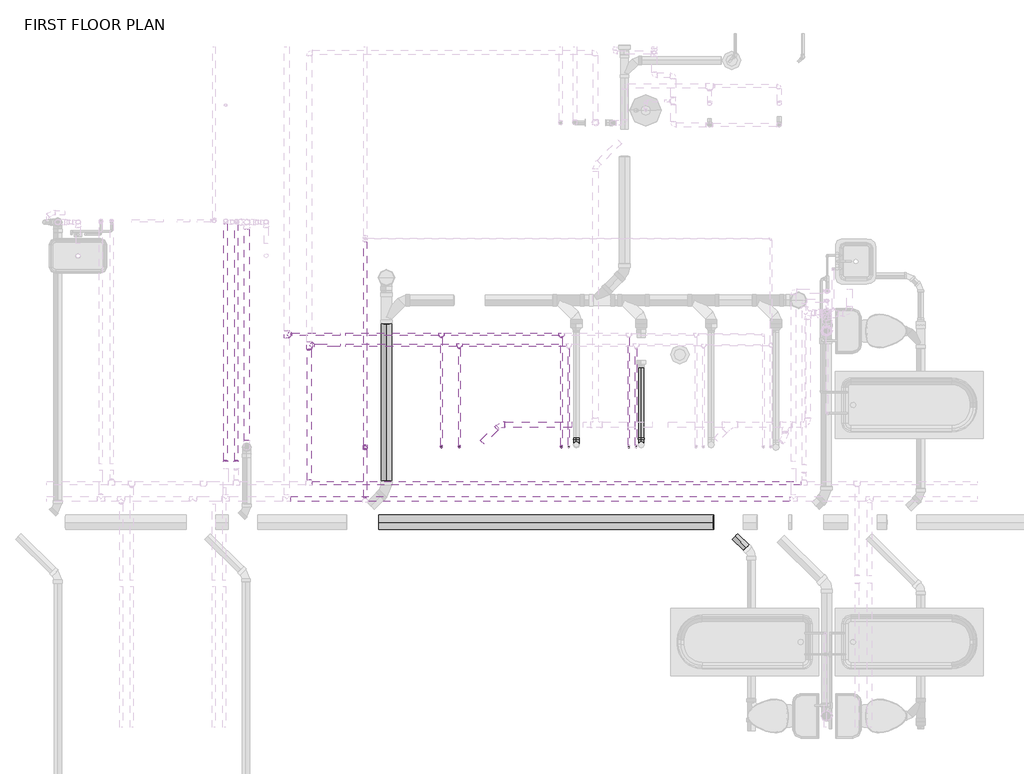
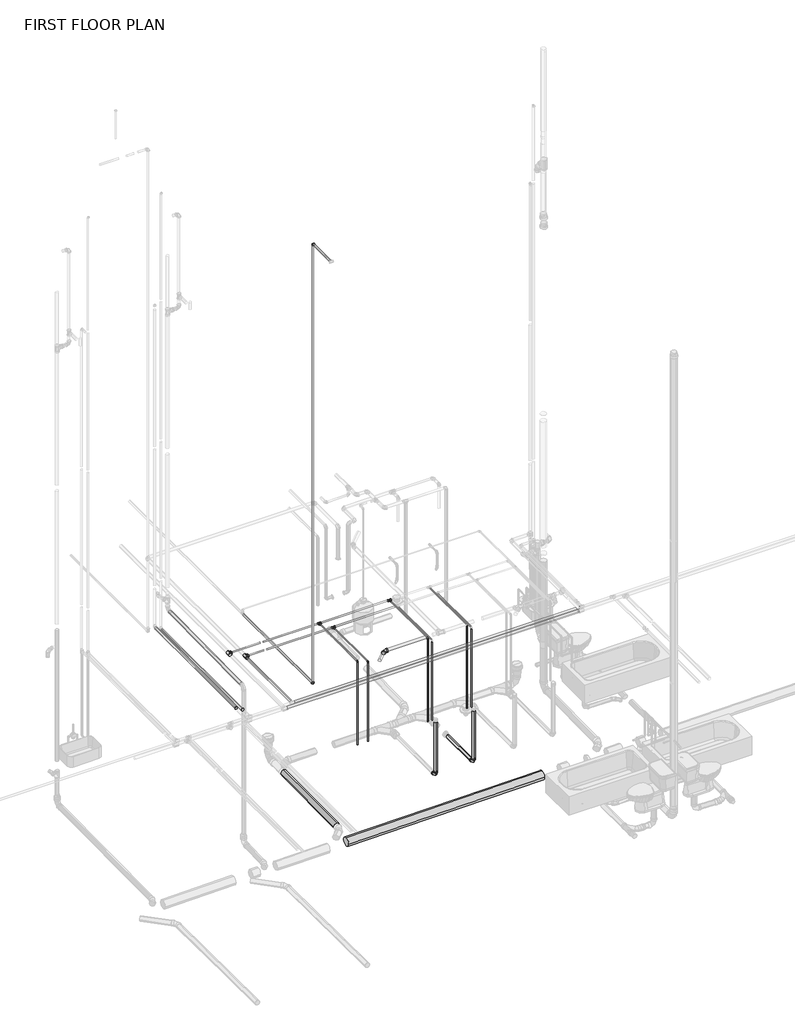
# One storey, part 13 of 29: 35 pipe segments, 21 pipe fittings.
"""IFC4 building model written with IfcOpenShell, lengths in millimetres."""

from ifc_helpers import new_model, si_unit, point, frame, frame_2d, origin, place, context, project, spatial, circle_curve, trimmed, segment, composite_curve, outline, extrude, transform, mapped, element, save
from components import bend_pvc_sch_40_dwv_standard_f2f5988a, bend_pvc_sch_40_dwv_standard_47385f67, bend_pvc_sch_40_dwv_standard_2ba8ce22, pipe_elbow_copper_k_aad62f2d, pipe_elbow_copper_k_aee2f062, pipe_tee_copper_k_36278b8a, pipe_tee_copper_k_feafe2f1, pipe_transition_copper_k_3b8d3413, pipe_transition_copper_k_a6a91236, pipe_transition_copper_k_b63fd5dd, pipe_transition_copper_k_83c73321

model = new_model("IFC4")

# Units and contexts
model_context = context("Model", 3, world=origin())
ifc_project = project(units=[si_unit("LENGTHUNIT", "METRE", prefix="MILLI")], contexts=[model_context])

# Site, building, storey
site = spatial("IfcSite", under=ifc_project)
building = spatial("IfcBuilding", under=site)
storey = spatial("IfcBuildingStorey", under=building, Name="FIRST FLOOR PLAN", Elevation=0.0)

# Pipe fittings
placement = place(None, origin())
bend_pvc_sch_40_dwv_standard_shape = bend_pvc_sch_40_dwv_standard_f2f5988a(model_context)
element("IfcPipeFitting", 1, ObjectType="Bend - PVC - Sch 40 - DWV : Standard", at=placement, inside=storey, context=model_context, shape_type="MappedRepresentation", body=[
    mapped(bend_pvc_sch_40_dwv_standard_shape, transform((13240.7734696, 6617.4137881, 2311.3999997), x_axis=(-1.0, 0.0, 0.0), y_axis=(0.0, -1.0, 0.0), z_axis=(0.0, 0.0, 1.0))),
])
bend_pvc_sch_40_dwv_standard_2_shape = bend_pvc_sch_40_dwv_standard_47385f67(model_context)
element("IfcPipeFitting", 2, ObjectType="Bend - PVC - Sch 40 - DWV : Standard", at=placement, inside=storey, context=model_context, shape_type="MappedRepresentation", body=[
    mapped(bend_pvc_sch_40_dwv_standard_2_shape, transform((14840.6889125, 6391.8219986, -376.343608), x_axis=(-4.307089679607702e-05, 4.2748559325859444e-05, -0.9999999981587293), y_axis=(6.94850071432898e-08, 0.9999999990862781, 4.274855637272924e-05), z_axis=(0.9999999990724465, -6.764378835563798e-08, -4.3070899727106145e-05))),
])
bend_pvc_sch_40_dwv_standard_3_shape = bend_pvc_sch_40_dwv_standard_2ba8ce22(model_context)
element("IfcPipeFitting", 3, ObjectType="Bend - PVC - Sch 40 - DWV : Standard", at=placement, inside=storey, context=model_context, shape_type="MappedRepresentation", body=[
    mapped(bend_pvc_sch_40_dwv_standard_3_shape, transform((14106.8551132, 6391.8240842, -383.9409394), x_axis=(-4.3070896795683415e-05, 4.274855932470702e-05, -0.9999999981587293), y_axis=(7.073454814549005e-08, 0.999999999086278, 4.2748556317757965e-05), z_axis=(0.9999999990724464, -6.889332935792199e-08, -4.307089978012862e-05))),
])
pipe_elbow_copper_k_shape = pipe_elbow_copper_k_aad62f2d(model_context)
element("IfcPipeFitting", 4, ObjectType="Pipe Elbow : Copper- K", at=placement, inside=storey, context=model_context, shape_type="MappedRepresentation", body=[
    mapped(pipe_elbow_copper_k_shape, transform((13936.7084875, 6363.4137881, 2490.6882812), x_axis=(0.0, 0.0, 1.0), y_axis=(0.0, 1.0, 0.0), z_axis=(-1.0, 0.0, 0.0))),
])
element("IfcPipeFitting", 5, ObjectType="Pipe Elbow : Copper- K", at=placement, inside=storey, context=model_context, shape_type="MappedRepresentation", body=[
    mapped(pipe_elbow_copper_k_shape, transform((12578.5084875, 6363.4137881, 2490.6882812), x_axis=(0.0, 0.0, 1.0), y_axis=(0.0, 1.0, 0.0), z_axis=(-1.0, 0.0, 0.0))),
])
element("IfcPipeFitting", 6, ObjectType="Pipe Elbow : Copper- K", at=placement, inside=storey, context=model_context, shape_type="MappedRepresentation", body=[
    mapped(pipe_elbow_copper_k_shape, transform((12781.7084875, 6363.4137881, 2413.0), x_axis=(0.0, 0.0, 1.0), y_axis=(0.0, 1.0, 0.0), z_axis=(-1.0, 0.0, 0.0))),
])
pipe_elbow_copper_k_2_shape = pipe_elbow_copper_k_aee2f062(model_context)
element("IfcPipeFitting", 7, ObjectType="Pipe Elbow : Copper- K", at=placement, inside=storey, context=model_context, shape_type="MappedRepresentation", body=[
    mapped(pipe_elbow_copper_k_2_shape, transform((11717.5356736, 6363.4137881, 2336.8), x_axis=(0.0, -1.0, 0.0), y_axis=(0.0, 0.0, 1.0), z_axis=(-1.0, 0.0, 0.0))),
])
element("IfcPipeFitting", 8, ObjectType="Pipe Elbow : Copper- K", at=placement, inside=storey, context=model_context, shape_type="MappedRepresentation", body=[
    mapped(pipe_elbow_copper_k_2_shape, transform((11717.5356736, 6363.4137881, 11328.4), x_axis=(0.0, 0.0, 1.0), y_axis=(0.0, -1.0, 0.0), z_axis=(1.0, 0.0, 0.0))),
])
pipe_tee_copper_k_shape = pipe_tee_copper_k_36278b8a(model_context)
element("IfcPipeFitting", 9, ObjectType="Pipe Tee : Copper- K", at=placement, inside=storey, context=model_context, shape_type="MappedRepresentation", body=[
    mapped(pipe_tee_copper_k_shape, transform((10828.4459875, 7639.882496, 2490.6882817), x_axis=(0.0, 1.0, 0.0), y_axis=(-1.0, 0.0, 0.0), z_axis=(0.0, 0.0, 1.0))),
])
element("IfcPipeFitting", 10, ObjectType="Pipe Tee : Copper- K", at=placement, inside=storey, context=model_context, shape_type="MappedRepresentation", body=[
    mapped(pipe_tee_copper_k_shape, transform((11082.5356736, 7519.1499538, 2413.0), x_axis=(0.0, 1.0, 0.0), y_axis=(-1.0, 0.0, 0.0), z_axis=(0.0, 0.0, 1.0))),
])
pipe_tee_copper_k_2_shape = pipe_tee_copper_k_feafe2f1(model_context)
element("IfcPipeFitting", 11, ObjectType="Pipe Tee : Copper- K", at=placement, inside=storey, context=model_context, shape_type="MappedRepresentation", body=[
    mapped(pipe_tee_copper_k_2_shape, transform((13936.7084875, 7639.882496, 2490.6882812), x_axis=(1.0, 0.0, 0.0), y_axis=(0.0, 1.0, 0.0), z_axis=(0.0, 0.0, 1.0))),
])
element("IfcPipeFitting", 12, ObjectType="Pipe Tee : Copper- K", at=placement, inside=storey, context=model_context, shape_type="MappedRepresentation", body=[
    mapped(pipe_tee_copper_k_2_shape, transform((12578.5084875, 7639.882496, 2490.6882812), x_axis=(1.0, 0.0, 0.0), y_axis=(0.0, 1.0, 0.0), z_axis=(0.0, 0.0, 1.0))),
])
element("IfcPipeFitting", 13, ObjectType="Pipe Tee : Copper- K", at=placement, inside=storey, context=model_context, shape_type="MappedRepresentation", body=[
    mapped(pipe_tee_copper_k_2_shape, transform((12781.7084875, 7519.1499538, 2413.0), x_axis=(1.0, 0.0, 0.0), y_axis=(0.0, 1.0, 0.0), z_axis=(0.0, 0.0, 1.0))),
])
pipe_transition_copper_k_shape = pipe_transition_copper_k_3b8d3413(model_context)
element("IfcPipeFitting", 14, ObjectType="Pipe Transition : Copper- K", at=placement, inside=storey, context=model_context, shape_type="MappedRepresentation", body=[
    mapped(pipe_transition_copper_k_shape, transform((11082.5356736, 7476.2874538, 2413.0), x_axis=(0.0, -1.0, 0.0), y_axis=(1.0, 0.0, 0.0), z_axis=(0.0, 0.0, 1.0))),
])
element("IfcPipeFitting", 15, ObjectType="Pipe Transition : Copper- K", at=placement, inside=storey, context=model_context, shape_type="MappedRepresentation", body=[
    mapped(pipe_transition_copper_k_shape, transform((10136.7487434, 6199.0757881, 2490.6882812), x_axis=(0.0, 1.0, 0.0), y_axis=(-1.0, 0.0, 0.0), z_axis=(0.0, 0.0, 1.0))),
])
pipe_transition_copper_k_2_shape = pipe_transition_copper_k_a6a91236(model_context)
element("IfcPipeFitting", 16, ObjectType="Pipe Transition : Copper- K", at=placement, inside=storey, context=model_context, shape_type="MappedRepresentation", body=[
    mapped(pipe_transition_copper_k_2_shape, transform((10871.3084875, 7639.882496, 2490.6882817), x_axis=(1.0, 0.0, 0.0), y_axis=(0.0, 1.0, 0.0), z_axis=(0.0, 0.0, 1.0))),
])
element("IfcPipeFitting", 17, ObjectType="Pipe Transition : Copper- K", at=placement, inside=storey, context=model_context, shape_type="MappedRepresentation", body=[
    mapped(pipe_transition_copper_k_2_shape, transform((11125.3981736, 7519.1499538, 2413.0), x_axis=(1.0, 0.0, 0.0), y_axis=(0.0, 1.0, 0.0), z_axis=(0.0, 0.0, 1.0))),
])
pipe_transition_copper_k_3_shape = pipe_transition_copper_k_b63fd5dd(model_context)
element("IfcPipeFitting", 18, ObjectType="Pipe Transition : Copper- K", at=placement, inside=storey, context=model_context, shape_type="MappedRepresentation", body=[
    mapped(pipe_transition_copper_k_3_shape, transform((12781.7084875, 7488.9874538, 2413.0), x_axis=(0.0, -1.0, 0.0), y_axis=(1.0, 0.0, 0.0), z_axis=(0.0, 0.0, 1.0))),
])
element("IfcPipeFitting", 19, ObjectType="Pipe Transition : Copper- K", at=placement, inside=storey, context=model_context, shape_type="MappedRepresentation", body=[
    mapped(pipe_transition_copper_k_3_shape, transform((12578.5084875, 7609.719996, 2490.6882812), x_axis=(0.0, -1.0, 0.0), y_axis=(1.0, 0.0, 0.0), z_axis=(0.0, 0.0, 1.0))),
])
element("IfcPipeFitting", 20, ObjectType="Pipe Transition : Copper- K", at=placement, inside=storey, context=model_context, shape_type="MappedRepresentation", body=[
    mapped(pipe_transition_copper_k_3_shape, transform((13936.7084875, 7609.719996, 2490.6882812), x_axis=(0.0, -1.0, 0.0), y_axis=(1.0, 0.0, 0.0), z_axis=(0.0, 0.0, 1.0))),
])
pipe_transition_copper_k_4_shape = pipe_transition_copper_k_83c73321(model_context)
element("IfcPipeFitting", 21, ObjectType="Pipe Transition : Copper- K", at=placement, inside=storey, context=model_context, shape_type="MappedRepresentation", body=[
    mapped(pipe_transition_copper_k_4_shape, transform((10257.4812856, 6199.0757881, 2413.0), x_axis=(0.0, 1.0, 0.0), y_axis=(-1.0, 0.0, 0.0), z_axis=(0.0, 0.0, 1.0))),
])

# Pipe segments
element("IfcPipeSegment", 22, ObjectType="Cast Iron - VENT", at=placement, inside=storey, context=model_context, shape_type="SweptSolid", body=[
    extrude(outline(composite_curve([segment(trimmed(circle_curve(frame_2d((0.0, -30.1625)), 30.1625), [point((-30.1625, -30.1625))], [point((0.0, 0.0))], False, "CARTESIAN"), True, "CONTINUOUS"), segment(trimmed(circle_curve(frame_2d((0.0, -30.1625)), 30.1625), [point((0.0, 0.0))], [point((30.1625, -30.1625))], False, "CARTESIAN"), True, "CONTINUOUS"), segment(trimmed(circle_curve(frame_2d((0.0, -30.1625)), 30.1625), [point((30.1625, -30.1625))], [point((0.0, -60.325))], False, "CARTESIAN"), True, "CONTINUOUS"), segment(trimmed(circle_curve(frame_2d((0.0, -30.1625)), 30.1625), [point((0.0, -60.325))], [point((-30.1625, -30.1625))], False, "CARTESIAN"), True, "CONTINUOUS")], self_intersect=False)), frame((13041.8906499, 6418.5309683, 2281.2374997), z_axis=(0.7071067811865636, 0.7071067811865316, 0.0), x_axis=(0.7071067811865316, -0.7071067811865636, 0.0)), (0.0, 0.0, 1.0), 224.112781),
])
element("IfcPipeSegment", 23, ObjectType="Cast Iron - VENT", at=placement, inside=storey, context=model_context, shape_type="SweptSolid", body=[
    extrude(outline(composite_curve([segment(trimmed(circle_curve(frame_2d((6617.4137881, 2311.4000006)), 30.1625), [point((6647.5762881, 2311.4000006))], [point((6617.4137881, 2281.2375006))], False, "CARTESIAN"), True, "CONTINUOUS"), segment(trimmed(circle_curve(frame_2d((6617.4137881, 2311.4000006)), 30.1625), [point((6617.4137881, 2281.2375006))], [point((6587.2512881, 2311.4000006))], False, "CARTESIAN"), True, "CONTINUOUS"), segment(trimmed(circle_curve(frame_2d((6617.4137881, 2311.4000006)), 30.1625), [point((6587.2512881, 2311.4000006))], [point((6617.4137881, 2341.5625006))], False, "CARTESIAN"), True, "CONTINUOUS"), segment(trimmed(circle_curve(frame_2d((6617.4137881, 2311.4000006)), 30.1625), [point((6617.4137881, 2341.5625006))], [point((6647.5762881, 2311.4000006))], False, "CARTESIAN"), True, "CONTINUOUS")], self_intersect=False)), frame((13297.9234696, 0.0, 0.0), z_axis=(1.0, 0.0, 0.0), x_axis=(0.0, 1.0, 0.0)), (0.0, 0.0, 1.0), 755.0236232),
])
element("IfcPipeSegment", 24, ObjectType="Copper", at=placement, inside=storey, context=model_context, shape_type="SweptSolid", body=[
    extrude(outline(composite_curve([segment(trimmed(circle_curve(frame_2d((2413.0, 10257.4812856)), 17.4625), [point((2413.0, 10274.9437856))], [point((2430.4625, 10257.4812856))], False, "CARTESIAN"), True, "CONTINUOUS"), segment(trimmed(circle_curve(frame_2d((2413.0, 10257.4812856)), 17.4625), [point((2430.4625, 10257.4812856))], [point((2413.0, 10240.0187856))], False, "CARTESIAN"), True, "CONTINUOUS"), segment(trimmed(circle_curve(frame_2d((2413.0, 10257.4812856)), 17.4625), [point((2413.0, 10240.0187856))], [point((2395.5375, 10257.4812856))], False, "CARTESIAN"), True, "CONTINUOUS"), segment(trimmed(circle_curve(frame_2d((2413.0, 10257.4812856)), 17.4625), [point((2395.5375, 10257.4812856))], [point((2413.0, 10274.9437856))], False, "CARTESIAN"), True, "CONTINUOUS")], self_intersect=False)), frame((0.0, 6212.5695381, 0.0), z_axis=(0.0, 1.0, 0.0), x_axis=(0.0, 0.0, 1.0)), (0.0, 0.0, 1.0), 2688.2605),
])
element("IfcPipeSegment", 25, ObjectType="Copper", at=placement, inside=storey, context=model_context, shape_type="SweptSolid", body=[
    extrude(outline(composite_curve([segment(trimmed(circle_curve(frame_2d((2490.6882812, 10136.7487434)), 20.6375), [point((2490.6882812, 10157.3862434))], [point((2511.3257812, 10136.7487434))], False, "CARTESIAN"), True, "CONTINUOUS"), segment(trimmed(circle_curve(frame_2d((2490.6882812, 10136.7487434)), 20.6375), [point((2511.3257812, 10136.7487434))], [point((2490.6882812, 10116.1112434))], False, "CARTESIAN"), True, "CONTINUOUS"), segment(trimmed(circle_curve(frame_2d((2490.6882812, 10136.7487434)), 20.6375), [point((2490.6882812, 10116.1112434))], [point((2470.0507812, 10136.7487434))], False, "CARTESIAN"), True, "CONTINUOUS"), segment(trimmed(circle_curve(frame_2d((2490.6882812, 10136.7487434)), 20.6375), [point((2470.0507812, 10136.7487434))], [point((2490.6882812, 10157.3862434))], False, "CARTESIAN"), True, "CONTINUOUS")], self_intersect=False)), frame((0.0, 6212.5695381, 0.0), z_axis=(0.0, 1.0, 0.0), x_axis=(0.0, 0.0, 1.0)), (0.0, 0.0, 1.0), 2685.0855),
])
element("IfcPipeSegment", 26, ObjectType="Copper", at=placement, inside=storey, context=model_context, shape_type="SweptSolid", body=[
    extrude(outline(composite_curve([segment(trimmed(circle_curve(frame_2d((5956.0175381, 2413.0)), 20.6375), [point((5976.6550381, 2413.0))], [point((5956.0175381, 2392.3625))], False, "CARTESIAN"), True, "CONTINUOUS"), segment(trimmed(circle_curve(frame_2d((5956.0175381, 2413.0)), 20.6375), [point((5956.0175381, 2392.3625))], [point((5935.3800381, 2413.0))], False, "CARTESIAN"), True, "CONTINUOUS"), segment(trimmed(circle_curve(frame_2d((5956.0175381, 2413.0)), 20.6375), [point((5935.3800381, 2413.0))], [point((5956.0175381, 2433.6375))], False, "CARTESIAN"), True, "CONTINUOUS"), segment(trimmed(circle_curve(frame_2d((5956.0175381, 2413.0)), 20.6375), [point((5956.0175381, 2433.6375))], [point((5976.6550381, 2413.0))], False, "CARTESIAN"), True, "CONTINUOUS")], self_intersect=False)), frame((11119.0481736, 0.0, 0.0), z_axis=(1.0, 0.0, 0.0), x_axis=(0.0, 1.0, 0.0)), (0.0, 0.0, 1.0), 5526.4539368),
])
element("IfcPipeSegment", 27, ObjectType="Copper", at=placement, inside=storey, context=model_context, shape_type="SweptSolid", body=[
    extrude(outline(composite_curve([segment(trimmed(circle_curve(frame_2d((5778.2175381, 2490.6882812)), 26.9875), [point((5805.2050381, 2490.6882812))], [point((5778.2175381, 2463.7007812))], False, "CARTESIAN"), True, "CONTINUOUS"), segment(trimmed(circle_curve(frame_2d((5778.2175381, 2490.6882812)), 26.9875), [point((5778.2175381, 2463.7007812))], [point((5751.2300381, 2490.6882812))], False, "CARTESIAN"), True, "CONTINUOUS"), segment(trimmed(circle_curve(frame_2d((5778.2175381, 2490.6882812)), 26.9875), [point((5751.2300381, 2490.6882812))], [point((5778.2175381, 2517.6757812))], False, "CARTESIAN"), True, "CONTINUOUS"), segment(trimmed(circle_curve(frame_2d((5778.2175381, 2490.6882812)), 26.9875), [point((5778.2175381, 2517.6757812))], [point((5805.2050381, 2490.6882812))], False, "CARTESIAN"), True, "CONTINUOUS")], self_intersect=False)), frame((10871.3084875, 0.0, 0.0), z_axis=(1.0, 0.0, 0.0), x_axis=(0.0, 1.0, 0.0)), (0.0, 0.0, 1.0), 5648.6914368),
])
element("IfcPipeSegment", 28, ObjectType="Copper", at=placement, inside=storey, context=model_context, shape_type="SweptSolid", body=[
    extrude(outline(composite_curve([segment(trimmed(circle_curve(frame_2d((7639.882496, 2490.6882812)), 14.2875), [point((7654.169996, 2490.6882812))], [point((7639.882496, 2476.4007812))], False, "CARTESIAN"), True, "CONTINUOUS"), segment(trimmed(circle_curve(frame_2d((7639.882496, 2490.6882812)), 14.2875), [point((7639.882496, 2476.4007812))], [point((7625.594996, 2490.6882812))], False, "CARTESIAN"), True, "CONTINUOUS"), segment(trimmed(circle_curve(frame_2d((7639.882496, 2490.6882812)), 14.2875), [point((7625.594996, 2490.6882812))], [point((7639.882496, 2504.9757812))], False, "CARTESIAN"), True, "CONTINUOUS"), segment(trimmed(circle_curve(frame_2d((7639.882496, 2490.6882812)), 14.2875), [point((7639.882496, 2504.9757812))], [point((7654.169996, 2490.6882812))], False, "CARTESIAN"), True, "CONTINUOUS")], self_intersect=False)), frame((10884.8022375, 0.0, 0.0), z_axis=(1.0, 0.0, 0.0), x_axis=(0.0, 1.0, 0.0)), (0.0, 0.0, 1.0), 548.2529785),
])
element("IfcPipeSegment", 29, ObjectType="Copper", at=placement, inside=storey, context=model_context, shape_type="SweptSolid", body=[
    extrude(outline(composite_curve([segment(trimmed(circle_curve(frame_2d((7519.1499538, 2413.0)), 14.2875), [point((7533.4374538, 2413.0))], [point((7519.1499538, 2398.7125))], False, "CARTESIAN"), True, "CONTINUOUS"), segment(trimmed(circle_curve(frame_2d((7519.1499538, 2413.0)), 14.2875), [point((7519.1499538, 2398.7125))], [point((7504.8624538, 2413.0))], False, "CARTESIAN"), True, "CONTINUOUS"), segment(trimmed(circle_curve(frame_2d((7519.1499538, 2413.0)), 14.2875), [point((7504.8624538, 2413.0))], [point((7519.1499538, 2427.2875))], False, "CARTESIAN"), True, "CONTINUOUS"), segment(trimmed(circle_curve(frame_2d((7519.1499538, 2413.0)), 14.2875), [point((7519.1499538, 2427.2875))], [point((7533.4374538, 2413.0))], False, "CARTESIAN"), True, "CONTINUOUS")], self_intersect=False)), frame((11138.8919236, 0.0, 0.0), z_axis=(1.0, 0.0, 0.0), x_axis=(0.0, 1.0, 0.0)), (0.0, 0.0, 1.0), 294.1632924),
])
element("IfcPipeSegment", 30, ObjectType="Copper", at=placement, inside=storey, context=model_context, shape_type="SweptSolid", body=[
    extrude(outline(composite_curve([segment(trimmed(circle_curve(frame_2d((2413.0, 11082.5356736)), 20.6375), [point((2413.0, 11061.8981736))], [point((2392.3625, 11082.5356736))], False, "CARTESIAN"), True, "CONTINUOUS"), segment(trimmed(circle_curve(frame_2d((2413.0, 11082.5356736)), 20.6375), [point((2392.3625, 11082.5356736))], [point((2413.0, 11103.1731736))], False, "CARTESIAN"), True, "CONTINUOUS"), segment(trimmed(circle_curve(frame_2d((2413.0, 11082.5356736)), 20.6375), [point((2413.0, 11103.1731736))], [point((2433.6375, 11082.5356736))], False, "CARTESIAN"), True, "CONTINUOUS"), segment(trimmed(circle_curve(frame_2d((2413.0, 11082.5356736)), 20.6375), [point((2433.6375, 11082.5356736))], [point((2413.0, 11061.8981736))], False, "CARTESIAN"), True, "CONTINUOUS")], self_intersect=False)), frame((0.0, 5992.5300381, 0.0), z_axis=(0.0, 1.0, 0.0), x_axis=(0.0, 0.0, 1.0)), (0.0, 0.0, 1.0), 1470.2636658),
])
element("IfcPipeSegment", 31, ObjectType="Copper", at=placement, inside=storey, context=model_context, shape_type="SweptSolid", body=[
    extrude(outline(composite_curve([segment(trimmed(circle_curve(frame_2d((2413.0, 12781.7084875)), 7.9375), [point((2413.0, 12789.6459875))], [point((2420.9375, 12781.7084875))], False, "CARTESIAN"), True, "CONTINUOUS"), segment(trimmed(circle_curve(frame_2d((2413.0, 12781.7084875)), 7.9375), [point((2420.9375, 12781.7084875))], [point((2413.0, 12773.7709875))], False, "CARTESIAN"), True, "CONTINUOUS"), segment(trimmed(circle_curve(frame_2d((2413.0, 12781.7084875)), 7.9375), [point((2413.0, 12773.7709875))], [point((2405.0625, 12781.7084875))], False, "CARTESIAN"), True, "CONTINUOUS"), segment(trimmed(circle_curve(frame_2d((2413.0, 12781.7084875)), 7.9375), [point((2405.0625, 12781.7084875))], [point((2413.0, 12789.6459875))], False, "CARTESIAN"), True, "CONTINUOUS")], self_intersect=False)), frame((0.0, 6380.8762881, 0.0), z_axis=(0.0, 1.0, 0.0), x_axis=(0.0, 0.0, 1.0)), (0.0, 0.0, 1.0), 1100.9674158),
])
element("IfcPipeSegment", 32, ObjectType="Copper", at=placement, inside=storey, context=model_context, shape_type="SweptSolid", body=[
    extrude(outline(composite_curve([segment(trimmed(circle_curve(frame_2d((2490.6882813, 12578.5084875)), 7.9375), [point((2490.6882813, 12586.4459875))], [point((2498.6257813, 12578.5084875))], False, "CARTESIAN"), True, "CONTINUOUS"), segment(trimmed(circle_curve(frame_2d((2490.6882813, 12578.5084875)), 7.9375), [point((2498.6257813, 12578.5084875))], [point((2490.6882813, 12570.5709875))], False, "CARTESIAN"), True, "CONTINUOUS"), segment(trimmed(circle_curve(frame_2d((2490.6882813, 12578.5084875)), 7.9375), [point((2490.6882813, 12570.5709875))], [point((2482.7507813, 12578.5084875))], False, "CARTESIAN"), True, "CONTINUOUS"), segment(trimmed(circle_curve(frame_2d((2490.6882813, 12578.5084875)), 7.9375), [point((2482.7507813, 12578.5084875))], [point((2490.6882813, 12586.4459875))], False, "CARTESIAN"), True, "CONTINUOUS")], self_intersect=False)), frame((0.0, 6380.8762881, 0.0), z_axis=(0.0, 1.0, 0.0), x_axis=(0.0, 0.0, 1.0)), (0.0, 0.0, 1.0), 1221.699958),
])
element("IfcPipeSegment", 33, ObjectType="Copper", at=placement, inside=storey, context=model_context, shape_type="SweptSolid", body=[
    extrude(outline(composite_curve([segment(trimmed(circle_curve(frame_2d((12578.5084875, 6363.4137881)), 7.9375), [point((12586.4459875, 6363.4137881))], [point((12578.5084875, 6355.4762881))], False, "CARTESIAN"), True, "CONTINUOUS"), segment(trimmed(circle_curve(frame_2d((12578.5084875, 6363.4137881)), 7.9375), [point((12578.5084875, 6355.4762881))], [point((12570.5709875, 6363.4137881))], False, "CARTESIAN"), True, "CONTINUOUS"), segment(trimmed(circle_curve(frame_2d((12578.5084875, 6363.4137881)), 7.9375), [point((12570.5709875, 6363.4137881))], [point((12578.5084875, 6371.3512881))], False, "CARTESIAN"), True, "CONTINUOUS"), segment(trimmed(circle_curve(frame_2d((12578.5084875, 6363.4137881)), 7.9375), [point((12578.5084875, 6371.3512881))], [point((12586.4459875, 6363.4137881))], False, "CARTESIAN"), True, "CONTINUOUS")], self_intersect=False)), frame((0.0, 0.0, 788.8882812), z_axis=(0.0, 0.0, 1.0), x_axis=(1.0, 0.0, 0.0)), (0.0, 0.0, 1.0), 1684.3375),
])
element("IfcPipeSegment", 34, ObjectType="Copper", at=placement, inside=storey, context=model_context, shape_type="SweptSolid", body=[
    extrude(outline(composite_curve([segment(trimmed(circle_curve(frame_2d((12781.7084875, 6363.4137881)), 7.9375), [point((12789.6459875, 6363.4137881))], [point((12781.7084875, 6355.4762881))], False, "CARTESIAN"), True, "CONTINUOUS"), segment(trimmed(circle_curve(frame_2d((12781.7084875, 6363.4137881)), 7.9375), [point((12781.7084875, 6355.4762881))], [point((12773.7709875, 6363.4137881))], False, "CARTESIAN"), True, "CONTINUOUS"), segment(trimmed(circle_curve(frame_2d((12781.7084875, 6363.4137881)), 7.9375), [point((12773.7709875, 6363.4137881))], [point((12781.7084875, 6371.3512881))], False, "CARTESIAN"), True, "CONTINUOUS"), segment(trimmed(circle_curve(frame_2d((12781.7084875, 6363.4137881)), 7.9375), [point((12781.7084875, 6371.3512881))], [point((12789.6459875, 6363.4137881))], False, "CARTESIAN"), True, "CONTINUOUS")], self_intersect=False)), frame((0.0, 0.0, 788.8882812), z_axis=(0.0, 0.0, 1.0), x_axis=(1.0, 0.0, 0.0)), (0.0, 0.0, 1.0), 1606.6492188),
])
element("IfcPipeSegment", 35, ObjectType="Copper", at=placement, inside=storey, context=model_context, shape_type="SweptSolid", body=[
    extrude(outline(composite_curve([segment(trimmed(circle_curve(frame_2d((2413.0, 14782.5084875)), 7.9375), [point((2413.0, 14790.4459875))], [point((2420.9375, 14782.5084875))], False, "CARTESIAN"), True, "CONTINUOUS"), segment(trimmed(circle_curve(frame_2d((2413.0, 14782.5084875)), 7.9375), [point((2420.9375, 14782.5084875))], [point((2413.0, 14774.5709875))], False, "CARTESIAN"), True, "CONTINUOUS"), segment(trimmed(circle_curve(frame_2d((2413.0, 14782.5084875)), 7.9375), [point((2413.0, 14774.5709875))], [point((2405.0625, 14782.5084875))], False, "CARTESIAN"), True, "CONTINUOUS"), segment(trimmed(circle_curve(frame_2d((2413.0, 14782.5084875)), 7.9375), [point((2405.0625, 14782.5084875))], [point((2413.0, 14790.4459875))], False, "CARTESIAN"), True, "CONTINUOUS")], self_intersect=False)), frame((0.0, 6380.8762881, 0.0), z_axis=(0.0, 1.0, 0.0), x_axis=(0.0, 0.0, 1.0)), (0.0, 0.0, 1.0), 1100.9674158),
])
element("IfcPipeSegment", 36, ObjectType="Copper", at=placement, inside=storey, context=model_context, shape_type="SweptSolid", body=[
    extrude(outline(composite_curve([segment(trimmed(circle_curve(frame_2d((2490.6882813, 14698.9084875)), 7.9375), [point((2490.6882813, 14706.8459875))], [point((2498.6257813, 14698.9084875))], False, "CARTESIAN"), True, "CONTINUOUS"), segment(trimmed(circle_curve(frame_2d((2490.6882813, 14698.9084875)), 7.9375), [point((2498.6257813, 14698.9084875))], [point((2490.6882813, 14690.9709875))], False, "CARTESIAN"), True, "CONTINUOUS"), segment(trimmed(circle_curve(frame_2d((2490.6882813, 14698.9084875)), 7.9375), [point((2490.6882813, 14690.9709875))], [point((2482.7507813, 14698.9084875))], False, "CARTESIAN"), True, "CONTINUOUS"), segment(trimmed(circle_curve(frame_2d((2490.6882813, 14698.9084875)), 7.9375), [point((2482.7507813, 14698.9084875))], [point((2490.6882813, 14706.8459875))], False, "CARTESIAN"), True, "CONTINUOUS")], self_intersect=False)), frame((0.0, 6380.8762881, 0.0), z_axis=(0.0, 1.0, 0.0), x_axis=(0.0, 0.0, 1.0)), (0.0, 0.0, 1.0), 1221.699958),
])
element("IfcPipeSegment", 37, ObjectType="Copper", at=placement, inside=storey, context=model_context, shape_type="SweptSolid", body=[
    extrude(outline(composite_curve([segment(trimmed(circle_curve(frame_2d((14698.9084875, 6363.4137881)), 7.9375), [point((14706.8459875, 6363.4137881))], [point((14698.9084875, 6355.4762881))], False, "CARTESIAN"), True, "CONTINUOUS"), segment(trimmed(circle_curve(frame_2d((14698.9084875, 6363.4137881)), 7.9375), [point((14698.9084875, 6355.4762881))], [point((14690.9709875, 6363.4137881))], False, "CARTESIAN"), True, "CONTINUOUS"), segment(trimmed(circle_curve(frame_2d((14698.9084875, 6363.4137881)), 7.9375), [point((14690.9709875, 6363.4137881))], [point((14698.9084875, 6371.3512881))], False, "CARTESIAN"), True, "CONTINUOUS"), segment(trimmed(circle_curve(frame_2d((14698.9084875, 6363.4137881)), 7.9375), [point((14698.9084875, 6371.3512881))], [point((14706.8459875, 6363.4137881))], False, "CARTESIAN"), True, "CONTINUOUS")], self_intersect=False)), frame((0.0, 0.0, 788.8882812), z_axis=(0.0, 0.0, 1.0), x_axis=(1.0, 0.0, 0.0)), (0.0, 0.0, 1.0), 1684.3375),
])
element("IfcPipeSegment", 38, ObjectType="Copper", at=placement, inside=storey, context=model_context, shape_type="SweptSolid", body=[
    extrude(outline(composite_curve([segment(trimmed(circle_curve(frame_2d((14782.5084875, 6363.4137881)), 7.9375), [point((14790.4459875, 6363.4137881))], [point((14782.5084875, 6355.4762881))], False, "CARTESIAN"), True, "CONTINUOUS"), segment(trimmed(circle_curve(frame_2d((14782.5084875, 6363.4137881)), 7.9375), [point((14782.5084875, 6355.4762881))], [point((14774.5709875, 6363.4137881))], False, "CARTESIAN"), True, "CONTINUOUS"), segment(trimmed(circle_curve(frame_2d((14782.5084875, 6363.4137881)), 7.9375), [point((14774.5709875, 6363.4137881))], [point((14782.5084875, 6371.3512881))], False, "CARTESIAN"), True, "CONTINUOUS"), segment(trimmed(circle_curve(frame_2d((14782.5084875, 6363.4137881)), 7.9375), [point((14782.5084875, 6371.3512881))], [point((14790.4459875, 6363.4137881))], False, "CARTESIAN"), True, "CONTINUOUS")], self_intersect=False)), frame((0.0, 0.0, 788.8882812), z_axis=(0.0, 0.0, 1.0), x_axis=(1.0, 0.0, 0.0)), (0.0, 0.0, 1.0), 1606.6492188),
])
element("IfcPipeSegment", 39, ObjectType="Copper", at=placement, inside=storey, context=model_context, shape_type="SweptSolid", body=[
    extrude(outline(composite_curve([segment(trimmed(circle_curve(frame_2d((2413.0, 14020.3084875)), 7.9375), [point((2413.0, 14028.2459875))], [point((2420.9375, 14020.3084875))], False, "CARTESIAN"), True, "CONTINUOUS"), segment(trimmed(circle_curve(frame_2d((2413.0, 14020.3084875)), 7.9375), [point((2420.9375, 14020.3084875))], [point((2413.0, 14012.3709875))], False, "CARTESIAN"), True, "CONTINUOUS"), segment(trimmed(circle_curve(frame_2d((2413.0, 14020.3084875)), 7.9375), [point((2413.0, 14012.3709875))], [point((2405.0625, 14020.3084875))], False, "CARTESIAN"), True, "CONTINUOUS"), segment(trimmed(circle_curve(frame_2d((2413.0, 14020.3084875)), 7.9375), [point((2405.0625, 14020.3084875))], [point((2413.0, 14028.2459875))], False, "CARTESIAN"), True, "CONTINUOUS")], self_intersect=False)), frame((0.0, 6380.8762881, 0.0), z_axis=(0.0, 1.0, 0.0), x_axis=(0.0, 0.0, 1.0)), (0.0, 0.0, 1.0), 1100.9674158),
])
element("IfcPipeSegment", 40, ObjectType="Copper", at=placement, inside=storey, context=model_context, shape_type="SweptSolid", body=[
    extrude(outline(composite_curve([segment(trimmed(circle_curve(frame_2d((2490.6882813, 13936.7084875)), 7.9375), [point((2490.6882813, 13944.6459875))], [point((2498.6257813, 13936.7084875))], False, "CARTESIAN"), True, "CONTINUOUS"), segment(trimmed(circle_curve(frame_2d((2490.6882813, 13936.7084875)), 7.9375), [point((2498.6257813, 13936.7084875))], [point((2490.6882813, 13928.7709875))], False, "CARTESIAN"), True, "CONTINUOUS"), segment(trimmed(circle_curve(frame_2d((2490.6882813, 13936.7084875)), 7.9375), [point((2490.6882813, 13928.7709875))], [point((2482.7507813, 13936.7084875))], False, "CARTESIAN"), True, "CONTINUOUS"), segment(trimmed(circle_curve(frame_2d((2490.6882813, 13936.7084875)), 7.9375), [point((2482.7507813, 13936.7084875))], [point((2490.6882813, 13944.6459875))], False, "CARTESIAN"), True, "CONTINUOUS")], self_intersect=False)), frame((0.0, 6380.8762881, 0.0), z_axis=(0.0, 1.0, 0.0), x_axis=(0.0, 0.0, 1.0)), (0.0, 0.0, 1.0), 1221.699958),
])
element("IfcPipeSegment", 41, ObjectType="Copper", at=placement, inside=storey, context=model_context, shape_type="SweptSolid", body=[
    extrude(outline(composite_curve([segment(trimmed(circle_curve(frame_2d((13936.7084875, 6363.4137881)), 7.9375), [point((13944.6459875, 6363.4137881))], [point((13936.7084875, 6355.4762881))], False, "CARTESIAN"), True, "CONTINUOUS"), segment(trimmed(circle_curve(frame_2d((13936.7084875, 6363.4137881)), 7.9375), [point((13936.7084875, 6355.4762881))], [point((13928.7709875, 6363.4137881))], False, "CARTESIAN"), True, "CONTINUOUS"), segment(trimmed(circle_curve(frame_2d((13936.7084875, 6363.4137881)), 7.9375), [point((13928.7709875, 6363.4137881))], [point((13936.7084875, 6371.3512881))], False, "CARTESIAN"), True, "CONTINUOUS"), segment(trimmed(circle_curve(frame_2d((13936.7084875, 6363.4137881)), 7.9375), [point((13936.7084875, 6371.3512881))], [point((13944.6459875, 6363.4137881))], False, "CARTESIAN"), True, "CONTINUOUS")], self_intersect=False)), frame((0.0, 0.0, 788.8882812), z_axis=(0.0, 0.0, 1.0), x_axis=(1.0, 0.0, 0.0)), (0.0, 0.0, 1.0), 1684.3375),
])
element("IfcPipeSegment", 42, ObjectType="Copper", at=placement, inside=storey, context=model_context, shape_type="SweptSolid", body=[
    extrude(outline(composite_curve([segment(trimmed(circle_curve(frame_2d((14020.3084875, 6363.4137881)), 7.9375), [point((14028.2459875, 6363.4137881))], [point((14020.3084875, 6355.4762881))], False, "CARTESIAN"), True, "CONTINUOUS"), segment(trimmed(circle_curve(frame_2d((14020.3084875, 6363.4137881)), 7.9375), [point((14020.3084875, 6355.4762881))], [point((14012.3709875, 6363.4137881))], False, "CARTESIAN"), True, "CONTINUOUS"), segment(trimmed(circle_curve(frame_2d((14020.3084875, 6363.4137881)), 7.9375), [point((14012.3709875, 6363.4137881))], [point((14020.3084875, 6371.3512881))], False, "CARTESIAN"), True, "CONTINUOUS"), segment(trimmed(circle_curve(frame_2d((14020.3084875, 6363.4137881)), 7.9375), [point((14020.3084875, 6371.3512881))], [point((14028.2459875, 6363.4137881))], False, "CARTESIAN"), True, "CONTINUOUS")], self_intersect=False)), frame((0.0, 0.0, 788.8882812), z_axis=(0.0, 0.0, 1.0), x_axis=(1.0, 0.0, 0.0)), (0.0, 0.0, 1.0), 1606.6492188),
])
element("IfcPipeSegment", 43, ObjectType="Copper", at=placement, inside=storey, context=model_context, shape_type="SweptSolid", body=[
    extrude(outline(composite_curve([segment(trimmed(circle_curve(frame_2d((7639.882496, 2490.6882812)), 14.2875), [point((7654.169996, 2490.6882812))], [point((7639.882496, 2476.4007812))], False, "CARTESIAN"), True, "CONTINUOUS"), segment(trimmed(circle_curve(frame_2d((7639.882496, 2490.6882812)), 14.2875), [point((7639.882496, 2476.4007812))], [point((7625.594996, 2490.6882812))], False, "CARTESIAN"), True, "CONTINUOUS"), segment(trimmed(circle_curve(frame_2d((7639.882496, 2490.6882812)), 14.2875), [point((7625.594996, 2490.6882812))], [point((7639.882496, 2504.9757812))], False, "CARTESIAN"), True, "CONTINUOUS"), segment(trimmed(circle_curve(frame_2d((7639.882496, 2490.6882812)), 14.2875), [point((7639.882496, 2504.9757812))], [point((7654.169996, 2490.6882812))], False, "CARTESIAN"), True, "CONTINUOUS")], self_intersect=False)), frame((11495.0312159, 0.0, 0.0), z_axis=(1.0, 0.0, 0.0), x_axis=(0.0, 1.0, 0.0)), (0.0, 0.0, 1.0), 1053.3147715),
])
element("IfcPipeSegment", 44, ObjectType="Copper", at=placement, inside=storey, context=model_context, shape_type="SweptSolid", body=[
    extrude(outline(composite_curve([segment(trimmed(circle_curve(frame_2d((7639.882496, 2490.6882812)), 14.2875), [point((7654.169996, 2490.6882812))], [point((7639.882496, 2476.4007812))], False, "CARTESIAN"), True, "CONTINUOUS"), segment(trimmed(circle_curve(frame_2d((7639.882496, 2490.6882812)), 14.2875), [point((7639.882496, 2476.4007812))], [point((7625.594996, 2490.6882812))], False, "CARTESIAN"), True, "CONTINUOUS"), segment(trimmed(circle_curve(frame_2d((7639.882496, 2490.6882812)), 14.2875), [point((7625.594996, 2490.6882812))], [point((7639.882496, 2504.9757812))], False, "CARTESIAN"), True, "CONTINUOUS"), segment(trimmed(circle_curve(frame_2d((7639.882496, 2490.6882812)), 14.2875), [point((7639.882496, 2504.9757812))], [point((7654.169996, 2490.6882812))], False, "CARTESIAN"), True, "CONTINUOUS")], self_intersect=False)), frame((12608.6709875, 0.0, 0.0), z_axis=(1.0, 0.0, 0.0), x_axis=(0.0, 1.0, 0.0)), (0.0, 0.0, 1.0), 1297.875),
])
element("IfcPipeSegment", 45, ObjectType="Copper", at=placement, inside=storey, context=model_context, shape_type="SweptSolid", body=[
    extrude(outline(composite_curve([segment(trimmed(circle_curve(frame_2d((7519.1499538, 2413.0)), 14.2875), [point((7533.4374538, 2413.0))], [point((7519.1499538, 2398.7125))], False, "CARTESIAN"), True, "CONTINUOUS"), segment(trimmed(circle_curve(frame_2d((7519.1499538, 2413.0)), 14.2875), [point((7519.1499538, 2398.7125))], [point((7504.8624538, 2413.0))], False, "CARTESIAN"), True, "CONTINUOUS"), segment(trimmed(circle_curve(frame_2d((7519.1499538, 2413.0)), 14.2875), [point((7504.8624538, 2413.0))], [point((7519.1499538, 2427.2875))], False, "CARTESIAN"), True, "CONTINUOUS"), segment(trimmed(circle_curve(frame_2d((7519.1499538, 2413.0)), 14.2875), [point((7519.1499538, 2427.2875))], [point((7533.4374538, 2413.0))], False, "CARTESIAN"), True, "CONTINUOUS")], self_intersect=False)), frame((11495.0312159, 0.0, 0.0), z_axis=(1.0, 0.0, 0.0), x_axis=(0.0, 1.0, 0.0)), (0.0, 0.0, 1.0), 1256.5147715),
])
element("IfcPipeSegment", 46, ObjectType="Copper", at=placement, inside=storey, context=model_context, shape_type="SweptSolid", body=[
    extrude(outline(composite_curve([segment(trimmed(circle_curve(frame_2d((7519.1499538, 2413.0)), 14.2875), [point((7533.4374538, 2413.0))], [point((7519.1499538, 2398.7125))], False, "CARTESIAN"), True, "CONTINUOUS"), segment(trimmed(circle_curve(frame_2d((7519.1499538, 2413.0)), 14.2875), [point((7519.1499538, 2398.7125))], [point((7504.8624538, 2413.0))], False, "CARTESIAN"), True, "CONTINUOUS"), segment(trimmed(circle_curve(frame_2d((7519.1499538, 2413.0)), 14.2875), [point((7504.8624538, 2413.0))], [point((7519.1499538, 2427.2875))], False, "CARTESIAN"), True, "CONTINUOUS"), segment(trimmed(circle_curve(frame_2d((7519.1499538, 2413.0)), 14.2875), [point((7519.1499538, 2427.2875))], [point((7533.4374538, 2413.0))], False, "CARTESIAN"), True, "CONTINUOUS")], self_intersect=False)), frame((12811.8709875, 0.0, 0.0), z_axis=(1.0, 0.0, 0.0), x_axis=(0.0, 1.0, 0.0)), (0.0, 0.0, 1.0), 1178.275),
])
element("IfcPipeSegment", 47, ObjectType="Copper", at=placement, inside=storey, context=model_context, shape_type="SweptSolid", body=[
    extrude(outline(composite_curve([segment(trimmed(circle_curve(frame_2d((11717.5356736, 6363.4137881)), 17.4625), [point((11700.0731736, 6363.4137881))], [point((11717.5356736, 6380.8762881))], False, "CARTESIAN"), True, "CONTINUOUS"), segment(trimmed(circle_curve(frame_2d((11717.5356736, 6363.4137881)), 17.4625), [point((11717.5356736, 6380.8762881))], [point((11734.9981736, 6363.4137881))], False, "CARTESIAN"), True, "CONTINUOUS"), segment(trimmed(circle_curve(frame_2d((11717.5356736, 6363.4137881)), 17.4625), [point((11734.9981736, 6363.4137881))], [point((11717.5356736, 6345.9512881))], False, "CARTESIAN"), True, "CONTINUOUS"), segment(trimmed(circle_curve(frame_2d((11717.5356736, 6363.4137881)), 17.4625), [point((11717.5356736, 6345.9512881))], [point((11700.0731736, 6363.4137881))], False, "CARTESIAN"), True, "CONTINUOUS")], self_intersect=False)), frame((0.0, 0.0, 2363.7875), z_axis=(0.0, 0.0, 1.0), x_axis=(1.0, 0.0, 0.0)), (0.0, 0.0, 1.0), 8937.625),
])
element("IfcPipeSegment", 48, ObjectType="Copper", at=placement, inside=storey, context=model_context, shape_type="SweptSolid", body=[
    extrude(outline(composite_curve([segment(trimmed(circle_curve(frame_2d((11328.4, 11717.5356736)), 17.4625), [point((11328.4, 11700.0731736))], [point((11310.9375, 11717.5356736))], False, "CARTESIAN"), True, "CONTINUOUS"), segment(trimmed(circle_curve(frame_2d((11328.4, 11717.5356736)), 17.4625), [point((11310.9375, 11717.5356736))], [point((11328.4, 11734.9981736))], False, "CARTESIAN"), True, "CONTINUOUS"), segment(trimmed(circle_curve(frame_2d((11328.4, 11717.5356736)), 17.4625), [point((11328.4, 11734.9981736))], [point((11345.8625, 11717.5356736))], False, "CARTESIAN"), True, "CONTINUOUS"), segment(trimmed(circle_curve(frame_2d((11328.4, 11717.5356736)), 17.4625), [point((11345.8625, 11717.5356736))], [point((11328.4, 11700.0731736))], False, "CARTESIAN"), True, "CONTINUOUS")], self_intersect=False)), frame((0.0, 5788.3419131, 0.0), z_axis=(0.0, 1.0, 0.0), x_axis=(0.0, 0.0, 1.0)), (0.0, 0.0, 1.0), 548.084375),
])
element("IfcPipeSegment", 49, ObjectType="Copper", at=placement, inside=storey, context=model_context, shape_type="SweptSolid", body=[
    extrude(outline(composite_curve([segment(trimmed(circle_curve(frame_2d((2336.8, 11717.5356736)), 17.4625), [point((2336.8, 11734.9981736))], [point((2354.2625, 11717.5356736))], False, "CARTESIAN"), True, "CONTINUOUS"), segment(trimmed(circle_curve(frame_2d((2336.8, 11717.5356736)), 17.4625), [point((2354.2625, 11717.5356736))], [point((2336.8, 11700.0731736))], False, "CARTESIAN"), True, "CONTINUOUS"), segment(trimmed(circle_curve(frame_2d((2336.8, 11717.5356736)), 17.4625), [point((2336.8, 11700.0731736))], [point((2319.3375, 11717.5356736))], False, "CARTESIAN"), True, "CONTINUOUS"), segment(trimmed(circle_curve(frame_2d((2336.8, 11717.5356736)), 17.4625), [point((2319.3375, 11717.5356736))], [point((2336.8, 11734.9981736))], False, "CARTESIAN"), True, "CONTINUOUS")], self_intersect=False)), frame((0.0, 6390.4012881, 0.0), z_axis=(0.0, 1.0, 0.0), x_axis=(0.0, 0.0, 1.0)), (0.0, 0.0, 1.0), 2301.875),
])
element("IfcPipeSegment", 50, ObjectType="PVC - SAN/STORM", at=placement, inside=storey, context=model_context, shape_type="SweptSolid", body=[
    extrude(outline(composite_curve([segment(trimmed(circle_curve(frame_2d((0.0, -30.1625)), 30.1625), [point((-30.1625, -30.1625))], [point((0.0, 0.0))], False, "CARTESIAN"), True, "CONTINUOUS"), segment(trimmed(circle_curve(frame_2d((0.0, -30.1625)), 30.1625), [point((0.0, 0.0))], [point((30.1625, -30.1625))], False, "CARTESIAN"), True, "CONTINUOUS"), segment(trimmed(circle_curve(frame_2d((0.0, -30.1625)), 30.1625), [point((30.1625, -30.1625))], [point((0.0, -60.325))], False, "CARTESIAN"), True, "CONTINUOUS"), segment(trimmed(circle_curve(frame_2d((0.0, -30.1625)), 30.1625), [point((0.0, -60.325))], [point((-30.1625, -30.1625))], False, "CARTESIAN"), True, "CONTINUOUS")], self_intersect=False)), frame((10375.4881099, 6441.5149503, 2721.166215), z_axis=(0.0, 0.9999457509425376, 0.01041610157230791), x_axis=(1.0, 0.0, 0.0)), (0.0, 0.0, 1.0), 2392.6608065),
])
element("IfcPipeSegment", 51, ObjectType="PVC - SAN/STORM", at=placement, inside=storey, context=model_context, shape_type="SweptSolid", body=[
    extrude(outline(composite_curve([segment(trimmed(circle_curve(frame_2d((0.0, 30.1625)), 30.1625), [point((-30.1625, 30.1625001))], [point((1e-07, 60.325))], False, "CARTESIAN"), True, "CONTINUOUS"), segment(trimmed(circle_curve(frame_2d((0.0, 30.1625)), 30.1625), [point((1e-07, 60.325))], [point((30.1625, 30.1625))], False, "CARTESIAN"), True, "CONTINUOUS"), segment(trimmed(circle_curve(frame_2d((0.0, 30.1625)), 30.1625), [point((30.1625, 30.1625))], [point((0.0, 0.0))], False, "CARTESIAN"), True, "CONTINUOUS"), segment(trimmed(circle_curve(frame_2d((0.0, 30.1625)), 30.1625), [point((0.0, 0.0))], [point((-30.1625, 30.1625001))], False, "CARTESIAN"), True, "CONTINUOUS")], self_intersect=False)), frame((14840.6922634, 6361.6561728, -298.5449226), z_axis=(1.554733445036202e-05, -5.0208431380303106e-05, 0.999999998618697), x_axis=(0.9999999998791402, 7.806058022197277e-10, -1.5547334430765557e-05)), (0.0, 0.0, 1.0), 983.812791),
])
element("IfcPipeSegment", 52, ObjectType="PVC - SAN/STORM", at=placement, inside=storey, context=model_context, shape_type="SweptSolid", body=[
    extrude(outline(composite_curve([segment(trimmed(circle_curve(frame_2d((0.0, 30.1625)), 30.1625), [point((-30.1625, 30.1625001))], [point((0.0, 60.325))], False, "CARTESIAN"), True, "CONTINUOUS"), segment(trimmed(circle_curve(frame_2d((0.0, 30.1625)), 30.1625), [point((0.0, 60.325))], [point((30.1625, 30.1625))], False, "CARTESIAN"), True, "CONTINUOUS"), segment(trimmed(circle_curve(frame_2d((0.0, 30.1625)), 30.1625), [point((30.1625, 30.1625))], [point((0.0, 0.0))], False, "CARTESIAN"), True, "CONTINUOUS"), segment(trimmed(circle_curve(frame_2d((0.0, 30.1625)), 30.1625), [point((0.0, 0.0))], [point((-30.1625, 30.1625001))], False, "CARTESIAN"), True, "CONTINUOUS")], self_intersect=False)), frame((14106.8584641, 6361.6582584, -306.1422517), z_axis=(1.4977723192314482e-05, -5.0132990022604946e-05, 0.9999999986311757), x_axis=(0.999999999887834, 7.508766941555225e-10, -1.4977723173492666e-05)), (0.0, 0.0, 1.0), 1015.2190235),
])
element("IfcPipeSegment", 53, ObjectType="PVC - SAN/STORM", at=placement, inside=storey, context=model_context, shape_type="SweptSolid", body=[
    extrude(outline(composite_curve([segment(trimmed(circle_curve(frame_2d((0.0, -57.15)), 57.15), [point((-57.15, -57.15))], [point((0.0, 0.0))], False, "CARTESIAN"), True, "CONTINUOUS"), segment(trimmed(circle_curve(frame_2d((0.0, -57.15)), 57.15), [point((0.0, 0.0))], [point((57.15, -57.15))], False, "CARTESIAN"), True, "CONTINUOUS"), segment(trimmed(circle_curve(frame_2d((0.0, -57.15)), 57.15), [point((57.15, -57.15))], [point((0.0, -114.2999999))], False, "CARTESIAN"), True, "CONTINUOUS"), segment(trimmed(circle_curve(frame_2d((0.0, -57.15)), 57.15), [point((0.0, -114.2999999))], [point((-57.15, -57.15))], False, "CARTESIAN"), True, "CONTINUOUS")], self_intersect=False)), frame((11956.7906356, 5979.9427714, -487.4389163), z_axis=(0.0, 0.9999457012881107, 0.010420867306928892), x_axis=(1.0, 0.0, 0.0)), (0.0, 0.0, 1.0), 1782.427282),
])
element("IfcPipeSegment", 54, ObjectType="PVC - SAN/STORM", at=placement, inside=storey, context=model_context, shape_type="SweptSolid", body=[
    extrude(outline(composite_curve([segment(trimmed(circle_curve(frame_2d((0.0, -30.1625)), 30.1625), [point((0.0, -60.325))], [point((-30.1625, -30.1625))], False, "CARTESIAN"), True, "CONTINUOUS"), segment(trimmed(circle_curve(frame_2d((0.0, -30.1625)), 30.1625), [point((-30.1625, -30.1625))], [point((0.0, 0.0))], False, "CARTESIAN"), True, "CONTINUOUS"), segment(trimmed(circle_curve(frame_2d((0.0, -30.1625)), 30.1625), [point((0.0, 0.0))], [point((30.1625, -30.1625))], False, "CARTESIAN"), True, "CONTINUOUS"), segment(trimmed(circle_curve(frame_2d((0.0, -30.1625)), 30.1625), [point((30.1625, -30.1625))], [point((0.0, -60.325))], False, "CARTESIAN"), True, "CONTINUOUS")], self_intersect=False)), frame((14810.5264125, 7264.8475269, -377.7147137), z_axis=(0.0, -0.9999987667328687, 0.0015705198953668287), x_axis=(0.0, 0.0015705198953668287, 0.9999987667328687)), (0.0, 0.0, 1.0), 795.226405),
])
element("IfcPipeSegment", 55, ObjectType="PVC - SAN/STORM", at=placement, inside=storey, context=model_context, shape_type="SweptSolid", body=[
    extrude(outline(composite_curve([segment(trimmed(circle_curve(frame_2d((0.0, 44.4499999)), 44.45), [point((-44.4475889, 43.9870293))], [point((-0.4629706, 88.8975889))], False, "CARTESIAN"), True, "CONTINUOUS"), segment(trimmed(circle_curve(frame_2d((0.0, 44.4499999)), 44.45), [point((-0.4629706, 88.8975889))], [point((44.4475889, 44.9129705))], False, "CARTESIAN"), True, "CONTINUOUS"), segment(trimmed(circle_curve(frame_2d((0.0, 44.4499999)), 44.45), [point((44.4475889, 44.9129705))], [point((0.4629707, 0.0024111))], False, "CARTESIAN"), True, "CONTINUOUS"), segment(trimmed(circle_curve(frame_2d((0.0, 44.4499999)), 44.45), [point((0.4629707, 0.0024111))], [point((-44.4475889, 43.9870293))], False, "CARTESIAN"), True, "CONTINUOUS")], self_intersect=False)), frame((15902.7267756, 5351.7323184, -435.5471697), z_axis=(0.7070684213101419, -0.7070684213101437, 0.010416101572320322), x_axis=(0.707145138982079, 0.7069917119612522, -0.010414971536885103)), (0.0, 0.0, 1.0), 180.2976008),
])
element("IfcPipeSegment", 56, ObjectType="PVC - SAN/STORM", at=placement, inside=storey, context=model_context, shape_type="SweptSolid", body=[
    extrude(outline(composite_curve([segment(trimmed(circle_curve(frame_2d((0.0, -84.1375)), 84.1375), [point((0.0, 0.0))], [point((84.1375, -84.1375))], False, "CARTESIAN"), True, "CONTINUOUS"), segment(trimmed(circle_curve(frame_2d((0.0, -84.1375)), 84.1375), [point((84.1375, -84.1375))], [point((0.0, -168.275))], False, "CARTESIAN"), True, "CONTINUOUS"), segment(trimmed(circle_curve(frame_2d((0.0, -84.1375)), 84.1375), [point((0.0, -168.275))], [point((-84.1375, -84.1375))], False, "CARTESIAN"), True, "CONTINUOUS"), segment(trimmed(circle_curve(frame_2d((0.0, -84.1375)), 84.1375), [point((-84.1375, -84.1375))], [point((0.0, 0.0))], False, "CARTESIAN"), True, "CONTINUOUS")], self_intersect=False)), frame((11869.0599071, 5598.1603988, -433.8152036), z_axis=(0.999945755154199, 0.0, 0.010415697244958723), x_axis=(0.010415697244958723, 0.0, -0.999945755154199)), (0.0, 0.0, 1.0), 3789.6910766),
])

save(model, "model.ifc")
